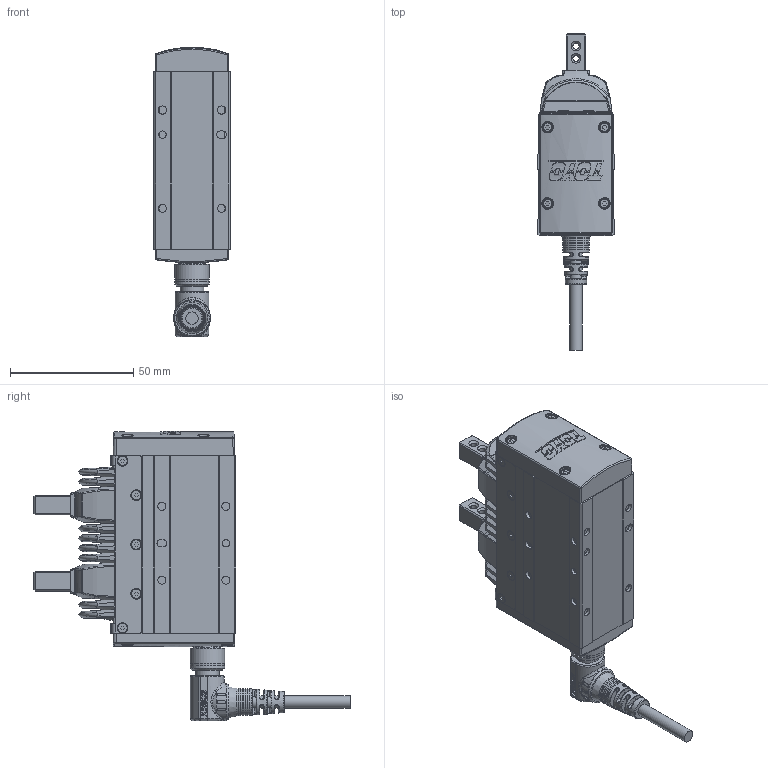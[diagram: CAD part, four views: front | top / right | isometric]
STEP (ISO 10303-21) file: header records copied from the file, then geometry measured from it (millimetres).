
FILE_DESCRIPTION(/* description */ ('STEP AP214'),/* implementation_level */ '2;1');
FILE_NAME(/* name */ 'D:\2025.02.25 帶電匯整給泊舟\3. CHS2系列\4.3D組立\CHS2C-S20-WW.stp',/* time_stamp */ '2025-02-25T18:16:49+08:00',/* author */ ('T10033'),/* organization */ (''),/* preprocessor_version */ 'ST-DEVELOPER v18.1',/* originating_system */ 'Autodesk Inventor 2020',/* authorisation */ '');
FILE_SCHEMA (('CONFIG_CONTROL_DESIGN'));
Products named in the file (8): CHS2-S20加防塵套組合圖-04.2+法蘭; socket head cap screw 4762_din_EN ISO 4762 M2 x 8 - 8S; socket head cap screw_iso_ISO 4762 M2 x 6 - 6S; M12 -14PIN  板端-第一種規格; 22149-000003-02; 12005-000068-02_¹w³]_¾÷¾¹¥
[¤u_; 32534T3_Shrinkwrap_1; M12-14PIN 線端90度接頭-05中繼線
Assembly tree (12 placements, depth 2):
  CHS2-S20加防塵套組合圖-04.2+法蘭
    socket head cap screw 4762_din_EN ISO 4762 M2 x 8 - 8S  x4
    socket head cap screw_iso_ISO 4762 M2 x 6 - 6S  x2
    M12 -14PIN  板端-第一種規格
    22149-000003-02
    12005-000068-02_¹w³]_¾÷¾¹¥
[¤u_  x2
    32534T3_Shrinkwrap_1
    M12-14PIN 線端90度接頭-05中繼線
Bounding box: 31 x 128.45 x 117.52 mm (x, y, z)
Volume: 130039.8 mm3; surface area: 51427.2 mm2
Topology: 26 solids, 39 shells, 3167 faces, 8811 edges, 5858 vertices
Faces by surface type: plane 1411, cylinder 675, cone 514, bspline 457, torus 102, sphere 8
Full cylindrical faces by diameter (mm): 0.6 x14, 0.65 x14, 1 x14, 1.8 x5, 2 x130, 2.2 x10, 2.5 x8, 2.6 x4, 3 x7, 3.3 x12, 3.8 x16, 4 x4, 4.8 x4, 5 x1, 8 x1, 8.9 x1, 9.5 x2, 9.6 x1, 10.5 x2, 10.9 x1, 11 x2, 11.2 x1, 11.25 x1, 12 x1, 13 x1, 13.8 x1, 14 x2, 14.4 x1, 16.482 x1
Entity records: 144848 total; most frequent: CARTESIAN_POINT 72141, ORIENTED_EDGE 15544, DIRECTION 13847, EDGE_CURVE 7790, AXIS2_PLACEMENT_3D 5220, VERTEX_POINT 5172, LINE 3407, VECTOR 3407
